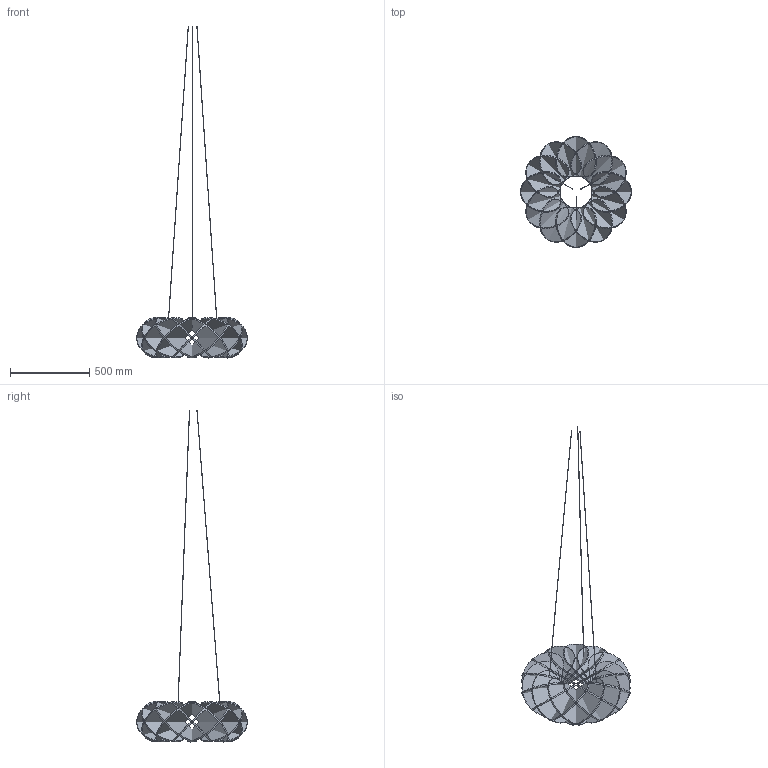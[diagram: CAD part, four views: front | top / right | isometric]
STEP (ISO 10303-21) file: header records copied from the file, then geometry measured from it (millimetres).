
FILE_DESCRIPTION(/* description */ (''),/* implementation_level */ '2;1');
FILE_NAME(/* name */ 'Halo Baffle 700_Lumenear_STEP',/* time_stamp */ '2024-11-07T11:34:57+01:00',/* author */ (''),/* organization */ (''),/* preprocessor_version */ 'ST-DEVELOPER v16.5',/* originating_system */ 'Rhino 7.37',/* authorisation */ '');
FILE_SCHEMA (('CONFIG_CONTROL_DESIGN'));
Length unit declared in the file: millimetre
Products named in the file (1): Document
Bounding box: 699.97 x 699.97 x 2100.16 mm (x, y, z)
Volume: 15738131.5 mm3; surface area: 3752719.3 mm2
Topology: 27 solids, 27 shells, 132 faces, 234 edges, 156 vertices
Faces by surface type: bspline 72, plane 54, cylinder 6
Entity records: 14108 total; most frequent: CARTESIAN_POINT 12242, ORIENTED_EDGE 468, EDGE_CURVE 234, B_SPLINE_CURVE_WITH_KNOTS 216, VERTEX_POINT 156, ADVANCED_FACE 132, FACE_OUTER_BOUND 132, EDGE_LOOP 132
